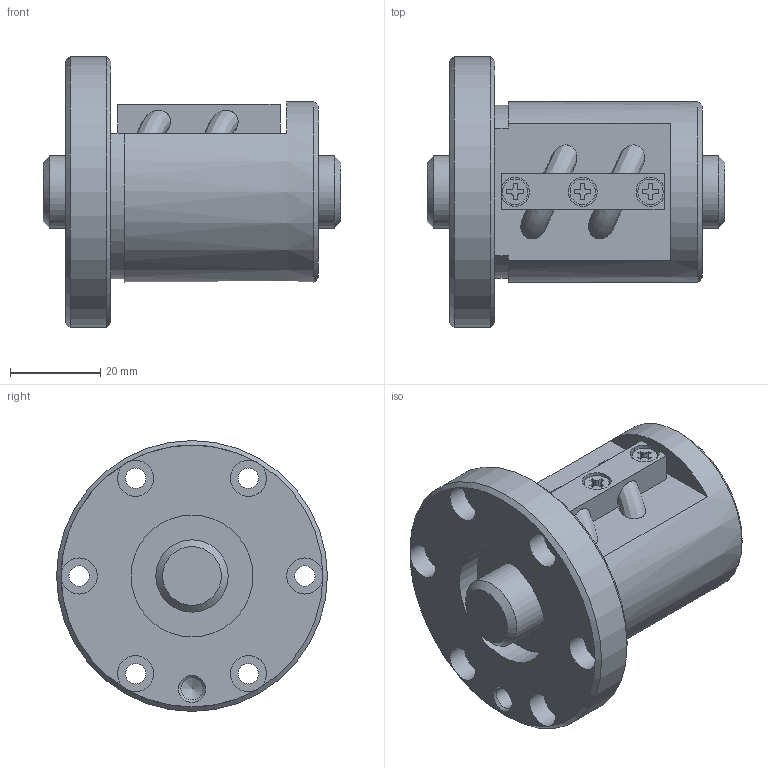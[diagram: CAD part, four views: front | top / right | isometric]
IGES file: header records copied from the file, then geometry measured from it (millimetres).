
Start section: Data from Parasolid IGES Translator 26.0.171, Copyright(c) 2006 Siemens PLM Software. All Rights Reserved.
Global section: file name: SBN1605V-5G0+66LC0(0000).igs; native system: By Siemens PLM Incorporated; preprocessor: XPlus GENERIC/IGES 26.0.171; author: Noname; organization: Noname; date: 20240528.102413; units: millimetre
Bounding box: 66 x 60 x 60 mm (x, y, z)
Surface area: 21728.2 mm2 (no closed solid volume)
Topology: 0 solids, 0 shells, 124 faces, 623 edges, 577 vertices
Faces by surface type: extrusion 69, revolution 55
